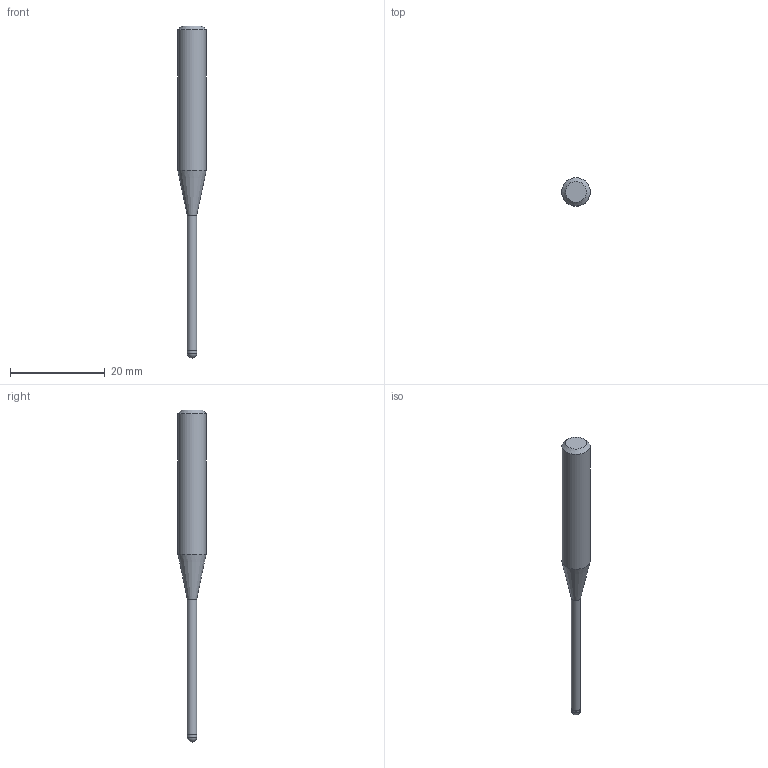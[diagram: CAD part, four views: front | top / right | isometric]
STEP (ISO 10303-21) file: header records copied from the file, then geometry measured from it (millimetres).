
FILE_DESCRIPTION((''),'2;1');
FILE_NAME('C:\Users\nsx150\AppData\Local\Temp\Mastercam 2021\ARV7HD45SN\TEMP.step','2023-06-13T16:37:55',(''),(''),'STEP Write','Mastercam 2021 ... CNC Software, Inc.','');
FILE_SCHEMA(('AUTOMOTIVE_DESIGN'));
Length unit declared in the file: millimetre
Products named in the file (1): None
Bounding box: 6 x 6 x 70 mm (x, y, z)
Volume: 1071.9 mm3; surface area: 903.6 mm2
Topology: 2 solids, 2 shells, 9 faces, 14 edges, 8 vertices
Faces by surface type: plane 3, cylinder 3, cone 2, sphere 1
Full cylindrical faces by diameter (mm): 1.94 x1, 2 x1, 6 x1
Entity records: 211 total; most frequent: DIRECTION 36, CARTESIAN_POINT 25, AXIS2_PLACEMENT_3D 18, ORIENTED_EDGE 14, EDGE_LOOP 14, STYLED_ITEM 12, ADVANCED_FACE 9, FACE_BOUND 8
